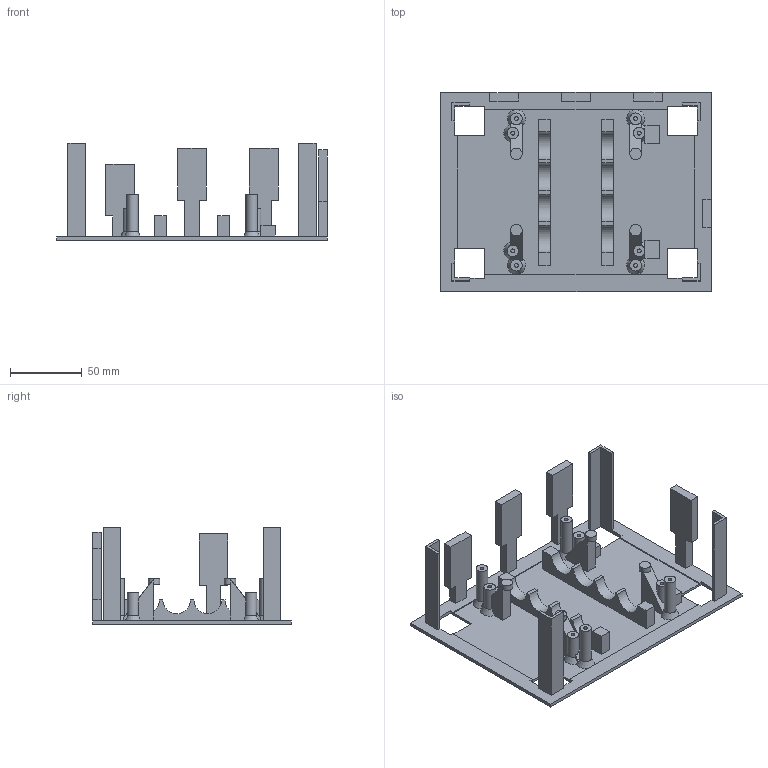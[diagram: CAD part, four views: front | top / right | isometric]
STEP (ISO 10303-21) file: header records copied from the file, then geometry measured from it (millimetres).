
FILE_DESCRIPTION(('Open CASCADE Model'),'2;1');
FILE_NAME('Open CASCADE Shape Model','2026-10-02T15:58:19',('Author'),( 'Open CASCADE'),'Open CASCADE STEP processor 8.0','build123d', 'Unknown');
FILE_SCHEMA(('AUTOMOTIVE_DESIGN { 1 0 10303 214 1 1 1 1 }'));
Length unit declared in the file: millimetre
Products named in the file (1): COMPOUND
Bounding box: 188.4 x 138.4 x 67.6 mm (x, y, z)
Volume: 117674.7 mm3; surface area: 89846.9 mm2
Topology: 1 solids, 1 shells, 255 faces, 698 edges, 454 vertices
Faces by surface type: plane 213, cylinder 34, cone 8
Full cylindrical faces by diameter (mm): 2.7 x8, 4.4 x2, 8 x8
Entity records: 17106 total; most frequent: CARTESIAN_POINT 3772, DIRECTION 2304, LINE 1434, VECTOR 1434, ORIENTED_EDGE 1384, PCURVE 1380, DEFINITIONAL_REPRESENTATION 1380, EDGE_CURVE 690
